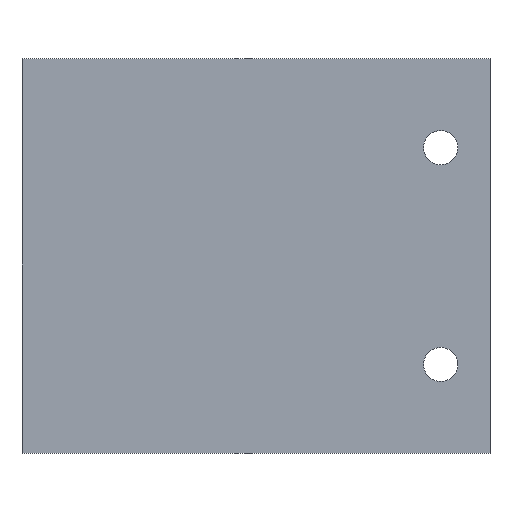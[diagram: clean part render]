
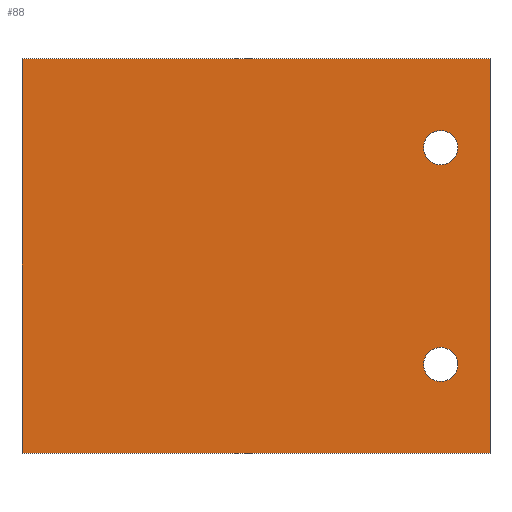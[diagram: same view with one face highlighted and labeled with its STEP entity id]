
A CAD part, top view. The second image highlights one B-rep face of the part: STEP entity #88.
In plain terms, the highlighted planar face has unit normal (0, 0, 1).
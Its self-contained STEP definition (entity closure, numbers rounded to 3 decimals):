
#27=CARTESIAN_POINT('',(3.25,0.,1.49));
#28=DIRECTION('',(0.,0.,1.));
#29=DIRECTION('',(1.,0.,0.));
#30=AXIS2_PLACEMENT_3D('',#27,#28,#29);
#31=PLANE('',#30);
#32=CARTESIAN_POINT('',(21.14,9.6,1.49));
#33=VERTEX_POINT('',#32);
#34=CARTESIAN_POINT('',(19.625,9.6,1.49));
#35=DIRECTION('',(0.,0.,-1.));
#36=DIRECTION('',(1.,0.,0.));
#37=AXIS2_PLACEMENT_3D('',#34,#35,#36);
#38=CIRCLE('',#37,1.515);
#39=EDGE_CURVE('',#33,#33,#38,.T.);
#40=ORIENTED_EDGE('',*,*,#39,.T.);
#41=EDGE_LOOP('',(#40));
#42=FACE_BOUND('',#41,.T.);
#43=CARTESIAN_POINT('',(21.14,-9.62,1.49));
#44=VERTEX_POINT('',#43);
#45=CARTESIAN_POINT('',(19.625,-9.62,1.49));
#46=DIRECTION('',(0.,0.,-1.));
#47=DIRECTION('',(1.,0.,0.));
#48=AXIS2_PLACEMENT_3D('',#45,#46,#47);
#49=CIRCLE('',#48,1.515);
#50=EDGE_CURVE('',#44,#44,#49,.T.);
#51=ORIENTED_EDGE('',*,*,#50,.T.);
#52=EDGE_LOOP('',(#51));
#53=FACE_BOUND('',#52,.T.);
#54=CARTESIAN_POINT('',(24.,-17.5,1.49));
#55=VERTEX_POINT('',#54);
#56=CARTESIAN_POINT('',(-17.5,-17.5,1.49));
#57=VERTEX_POINT('',#56);
#58=CARTESIAN_POINT('',(24.,-17.5,1.49));
#59=DIRECTION('',(-1.,0.,0.));
#60=VECTOR('',#59,41.5);
#61=LINE('',#58,#60);
#62=EDGE_CURVE('',#55,#57,#61,.T.);
#63=ORIENTED_EDGE('',*,*,#62,.F.);
#64=CARTESIAN_POINT('',(24.,17.5,1.49));
#65=VERTEX_POINT('',#64);
#66=CARTESIAN_POINT('',(24.,17.5,1.49));
#67=DIRECTION('',(0.,-1.,0.));
#68=VECTOR('',#67,35.);
#69=LINE('',#66,#68);
#70=EDGE_CURVE('',#65,#55,#69,.T.);
#71=ORIENTED_EDGE('',*,*,#70,.F.);
#72=CARTESIAN_POINT('',(-17.5,17.5,1.49));
#73=VERTEX_POINT('',#72);
#74=CARTESIAN_POINT('',(-17.5,17.5,1.49));
#75=DIRECTION('',(1.,0.,-0.));
#76=VECTOR('',#75,41.5);
#77=LINE('',#74,#76);
#78=EDGE_CURVE('',#73,#65,#77,.T.);
#79=ORIENTED_EDGE('',*,*,#78,.F.);
#80=CARTESIAN_POINT('',(-17.5,-17.5,1.49));
#81=DIRECTION('',(0.,1.,0.));
#82=VECTOR('',#81,35.);
#83=LINE('',#80,#82);
#84=EDGE_CURVE('',#57,#73,#83,.T.);
#85=ORIENTED_EDGE('',*,*,#84,.F.);
#86=EDGE_LOOP('',(#63,#71,#79,#85));
#87=FACE_BOUND('',#86,.T.);
#88=ADVANCED_FACE('',(#42,#53,#87),#31,.T.);
